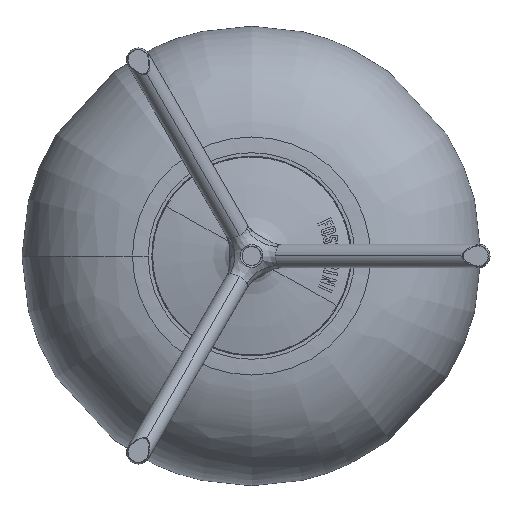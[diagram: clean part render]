
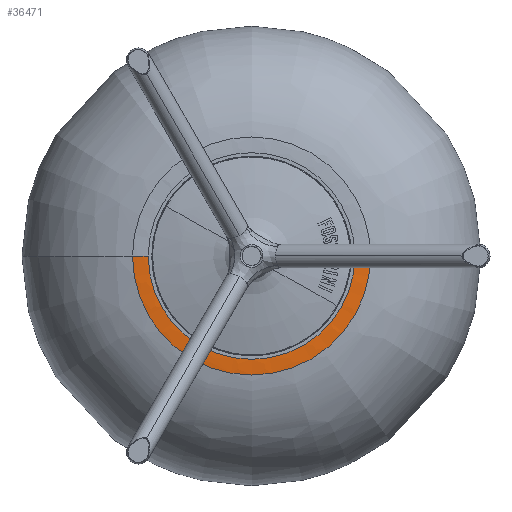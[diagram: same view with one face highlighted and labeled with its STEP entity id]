
A CAD part, front view. The second image highlights one B-rep face of the part: STEP entity #36471.
In plain terms, the highlighted toroidal (fillet/blend) face has major radius 43.5 mm and minor radius 55.212 mm.
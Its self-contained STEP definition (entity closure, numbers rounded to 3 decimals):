
#216 = VERTEX_POINT ( 'NONE', #10214 ) ;
#268 = CARTESIAN_POINT ( 'NONE',  ( -96.893, 61.878, 46.974 ) ) ;
#300 = EDGE_LOOP ( 'NONE', ( #29419, #12467, #5763, #17630 ) ) ;
#1663 = DIRECTION ( 'NONE',  ( 1., 0., 0. ) ) ;
#3551 = CIRCLE ( 'NONE', #7801, 43.5 ) ;
#3976 = DIRECTION ( 'NONE',  ( 0., 0., -1. ) ) ;
#5763 = ORIENTED_EDGE ( 'NONE', *, *, #30548, .F. ) ;
#7588 = DIRECTION ( 'NONE',  ( 0., 1., 0. ) ) ;
#7801 = AXIS2_PLACEMENT_3D ( 'NONE', #24452, #35579, #21257 ) ;
#8531 = AXIS2_PLACEMENT_3D ( 'NONE', #10016, #35057, #20722 ) ;
#9874 = VERTEX_POINT ( 'NONE', #25771 ) ;
#10016 = CARTESIAN_POINT ( 'NONE',  ( -53.393, 61.878, 46.974 ) ) ;
#10214 = CARTESIAN_POINT ( 'NONE',  ( -140.393, 6.666, 46.974 ) ) ;
#11589 = CIRCLE ( 'NONE', #32623, 50.093 ) ;
#12467 = ORIENTED_EDGE ( 'NONE', *, *, #37154, .T. ) ;
#13076 = DIRECTION ( 'NONE',  ( 1., 0., 0. ) ) ;
#13737 = CARTESIAN_POINT ( 'NONE',  ( -146.985, 7.061, 46.974 ) ) ;
#17630 = ORIENTED_EDGE ( 'NONE', *, *, #17654, .F. ) ;
#17654 = EDGE_CURVE ( 'NONE', #21318, #9874, #18098, .T. ) ;
#18098 = CIRCLE ( 'NONE', #8531, 55.212 ) ;
#20600 = CIRCLE ( 'NONE', #25400, 55.212 ) ;
#20655 = TOROIDAL_SURFACE ( 'NONE', #35032, 43.5, 55.212 ) ;
#20722 = DIRECTION ( 'NONE',  ( 0., -1., 0. ) ) ;
#21257 = DIRECTION ( 'NONE',  ( 1., 0., 0. ) ) ;
#21318 = VERTEX_POINT ( 'NONE', #28353 ) ;
#24452 = CARTESIAN_POINT ( 'NONE',  ( -96.893, 6.666, 46.974 ) ) ;
#24482 = EDGE_CURVE ( 'NONE', #21318, #216, #3551, .T. ) ;
#24532 = VERTEX_POINT ( 'NONE', #13737 ) ;
#25400 = AXIS2_PLACEMENT_3D ( 'NONE', #35074, #3976, #29220 ) ;
#25771 = CARTESIAN_POINT ( 'NONE',  ( -46.8, 7.061, 46.974 ) ) ;
#27461 = CARTESIAN_POINT ( 'NONE',  ( -96.893, 7.061, 46.974 ) ) ;
#28353 = CARTESIAN_POINT ( 'NONE',  ( -53.393, 6.666, 46.974 ) ) ;
#29065 = FACE_OUTER_BOUND ( 'NONE', #300, .T. ) ;
#29220 = DIRECTION ( 'NONE',  ( -1., 0., 0. ) ) ;
#29419 = ORIENTED_EDGE ( 'NONE', *, *, #24482, .T. ) ;
#30548 = EDGE_CURVE ( 'NONE', #9874, #24532, #11589, .T. ) ;
#32623 = AXIS2_PLACEMENT_3D ( 'NONE', #27461, #33327, #1663 ) ;
#33327 = DIRECTION ( 'NONE',  ( 0., 1., 0. ) ) ;
#35032 = AXIS2_PLACEMENT_3D ( 'NONE', #268, #7588, #13076 ) ;
#35057 = DIRECTION ( 'NONE',  ( 0., 0., 1. ) ) ;
#35074 = CARTESIAN_POINT ( 'NONE',  ( -140.393, 61.878, 46.974 ) ) ;
#35579 = DIRECTION ( 'NONE',  ( 0., 1., 0. ) ) ;
#36471 = ADVANCED_FACE ( 'NONE', ( #29065 ), #20655, .T. ) ;
#37154 = EDGE_CURVE ( 'NONE', #216, #24532, #20600, .T. ) ;
